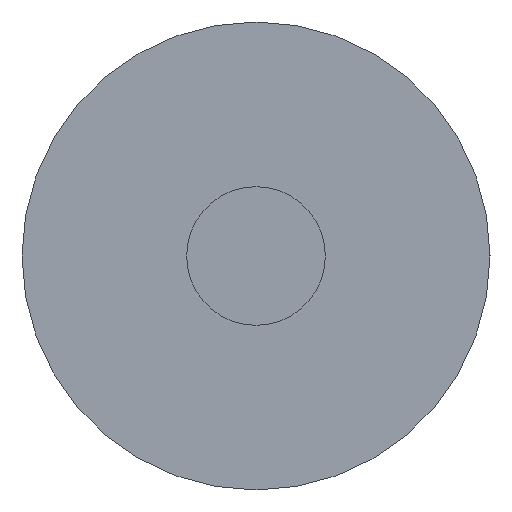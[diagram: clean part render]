
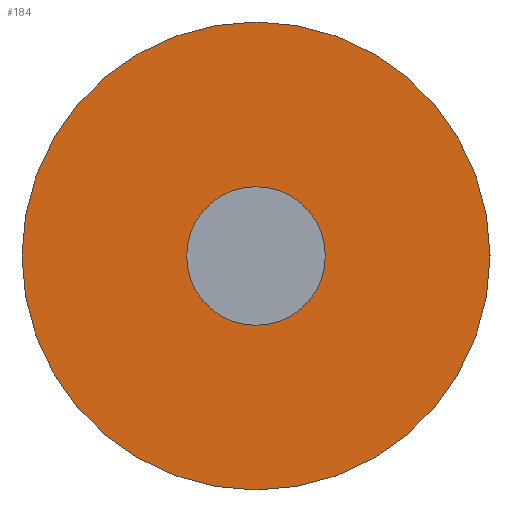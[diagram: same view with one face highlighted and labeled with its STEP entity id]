
A CAD part, left-side view. The second image highlights one B-rep face of the part: STEP entity #184.
In plain terms, the highlighted planar face has unit normal (-1, 0, 0).
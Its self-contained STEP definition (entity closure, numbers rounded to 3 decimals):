
#184=ADVANCED_FACE('',(#208),#198,.F.);
#198=PLANE('',#322);
#208=FACE_OUTER_BOUND('',#220,.T.);
#220=EDGE_LOOP('',(#248));
#248=ORIENTED_EDGE('',*,*,#284,.F.);
#270=VERTEX_POINT('',#422);
#284=EDGE_CURVE('',#270,#270,#298,.T.);
#298=CIRCLE('',#319,2.7);
#319=AXIS2_PLACEMENT_3D('',#421,#362,#363);
#322=AXIS2_PLACEMENT_3D('',#426,#368,#369);
#362=DIRECTION('',(1.,0.,0.));
#363=DIRECTION('',(0.,0.,-1.));
#368=DIRECTION('',(1.,0.,0.));
#369=DIRECTION('',(0.,0.,-1.));
#421=CARTESIAN_POINT('',(27.5,0.,0.));
#422=CARTESIAN_POINT('',(27.5,0.,-2.7));
#426=CARTESIAN_POINT('',(27.5,0.,0.));
